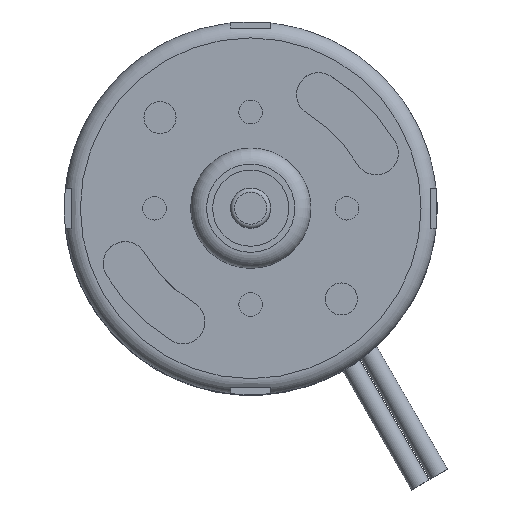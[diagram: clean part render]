
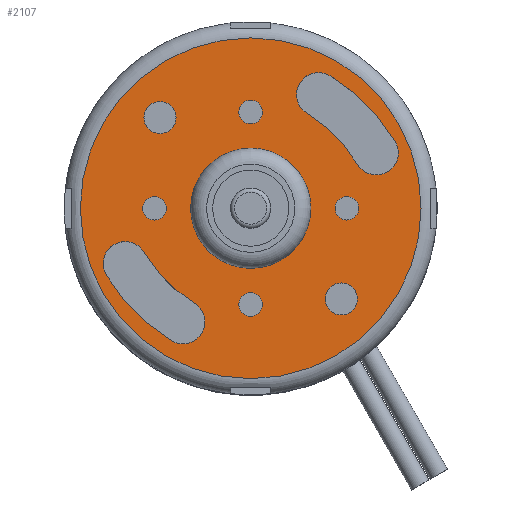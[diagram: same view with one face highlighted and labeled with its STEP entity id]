
A CAD part, top view. The second image highlights one B-rep face of the part: STEP entity #2107.
In plain terms, the highlighted planar face has unit normal (0, 0, 1).
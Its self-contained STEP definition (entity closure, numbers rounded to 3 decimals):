
#433=PLANE('',#2371);
#468=FACE_BOUND('',#761,.T.);
#469=FACE_BOUND('',#762,.T.);
#470=FACE_BOUND('',#763,.T.);
#471=FACE_BOUND('',#764,.T.);
#472=FACE_BOUND('',#765,.T.);
#473=FACE_BOUND('',#766,.T.);
#474=FACE_BOUND('',#767,.T.);
#475=FACE_BOUND('',#768,.T.);
#476=FACE_BOUND('',#769,.T.);
#601=FACE_OUTER_BOUND('',#760,.T.);
#760=EDGE_LOOP('',(#1920));
#761=EDGE_LOOP('',(#1921,#1922,#1923,#1924));
#762=EDGE_LOOP('',(#1925,#1926,#1927,#1928));
#763=EDGE_LOOP('',(#1929));
#764=EDGE_LOOP('',(#1930));
#765=EDGE_LOOP('',(#1931));
#766=EDGE_LOOP('',(#1932));
#767=EDGE_LOOP('',(#1933));
#768=EDGE_LOOP('',(#1934));
#769=EDGE_LOOP('',(#1935));
#775=CIRCLE('',#2125,7.5);
#783=CIRCLE('',#2155,21.25);
#822=CIRCLE('',#2239,2.75);
#824=CIRCLE('',#2242,18.5);
#826=CIRCLE('',#2245,2.75);
#828=CIRCLE('',#2248,24.);
#830=CIRCLE('',#2252,18.5);
#832=CIRCLE('',#2255,2.75);
#834=CIRCLE('',#2258,24.);
#836=CIRCLE('',#2261,2.75);
#840=CIRCLE('',#2267,1.475);
#843=CIRCLE('',#2272,1.475);
#846=CIRCLE('',#2277,1.475);
#849=CIRCLE('',#2282,1.475);
#851=CIRCLE('',#2286,2.);
#853=CIRCLE('',#2290,2.);
#897=VERTEX_POINT('',#3039);
#926=VERTEX_POINT('',#3159);
#1000=VERTEX_POINT('',#3528);
#1001=VERTEX_POINT('',#3529);
#1004=VERTEX_POINT('',#3537);
#1006=VERTEX_POINT('',#3543);
#1008=VERTEX_POINT('',#3553);
#1009=VERTEX_POINT('',#3554);
#1012=VERTEX_POINT('',#3562);
#1014=VERTEX_POINT('',#3568);
#1018=VERTEX_POINT('',#3582);
#1021=VERTEX_POINT('',#3590);
#1024=VERTEX_POINT('',#3598);
#1027=VERTEX_POINT('',#3606);
#1029=VERTEX_POINT('',#3612);
#1031=VERTEX_POINT('',#3618);
#1095=EDGE_CURVE('',#897,#897,#775,.T.);
#1136=EDGE_CURVE('',#926,#926,#783,.T.);
#1246=EDGE_CURVE('',#1000,#1001,#822,.T.);
#1250=EDGE_CURVE('',#1004,#1000,#824,.T.);
#1253=EDGE_CURVE('',#1006,#1004,#826,.T.);
#1256=EDGE_CURVE('',#1001,#1006,#828,.T.);
#1258=EDGE_CURVE('',#1008,#1009,#830,.T.);
#1262=EDGE_CURVE('',#1012,#1008,#832,.T.);
#1265=EDGE_CURVE('',#1014,#1012,#834,.T.);
#1268=EDGE_CURVE('',#1009,#1014,#836,.T.);
#1272=EDGE_CURVE('',#1018,#1018,#840,.T.);
#1275=EDGE_CURVE('',#1021,#1021,#843,.T.);
#1278=EDGE_CURVE('',#1024,#1024,#846,.T.);
#1281=EDGE_CURVE('',#1027,#1027,#849,.T.);
#1283=EDGE_CURVE('',#1029,#1029,#851,.T.);
#1285=EDGE_CURVE('',#1031,#1031,#853,.T.);
#1920=ORIENTED_EDGE('',*,*,#1136,.F.);
#1921=ORIENTED_EDGE('',*,*,#1246,.T.);
#1922=ORIENTED_EDGE('',*,*,#1256,.T.);
#1923=ORIENTED_EDGE('',*,*,#1253,.T.);
#1924=ORIENTED_EDGE('',*,*,#1250,.T.);
#1925=ORIENTED_EDGE('',*,*,#1258,.T.);
#1926=ORIENTED_EDGE('',*,*,#1268,.T.);
#1927=ORIENTED_EDGE('',*,*,#1265,.T.);
#1928=ORIENTED_EDGE('',*,*,#1262,.T.);
#1929=ORIENTED_EDGE('',*,*,#1272,.T.);
#1930=ORIENTED_EDGE('',*,*,#1275,.T.);
#1931=ORIENTED_EDGE('',*,*,#1278,.T.);
#1932=ORIENTED_EDGE('',*,*,#1281,.T.);
#1933=ORIENTED_EDGE('',*,*,#1283,.T.);
#1934=ORIENTED_EDGE('',*,*,#1285,.T.);
#1935=ORIENTED_EDGE('',*,*,#1095,.T.);
#2107=ADVANCED_FACE('',(#601,#468,#469,#470,#471,#472,#473,#474,#475,#476),
#433,.T.);
#2125=AXIS2_PLACEMENT_3D('',#3040,#2392,#2393);
#2155=AXIS2_PLACEMENT_3D('',#3160,#2473,#2474);
#2239=AXIS2_PLACEMENT_3D('',#3530,#2704,#2705);
#2242=AXIS2_PLACEMENT_3D('',#3538,#2712,#2713);
#2245=AXIS2_PLACEMENT_3D('',#3544,#2719,#2720);
#2248=AXIS2_PLACEMENT_3D('',#3549,#2726,#2727);
#2252=AXIS2_PLACEMENT_3D('',#3555,#2734,#2735);
#2255=AXIS2_PLACEMENT_3D('',#3563,#2742,#2743);
#2258=AXIS2_PLACEMENT_3D('',#3569,#2749,#2750);
#2261=AXIS2_PLACEMENT_3D('',#3574,#2756,#2757);
#2267=AXIS2_PLACEMENT_3D('',#3583,#2768,#2769);
#2272=AXIS2_PLACEMENT_3D('',#3591,#2778,#2779);
#2277=AXIS2_PLACEMENT_3D('',#3599,#2788,#2789);
#2282=AXIS2_PLACEMENT_3D('',#3607,#2798,#2799);
#2286=AXIS2_PLACEMENT_3D('',#3613,#2806,#2807);
#2290=AXIS2_PLACEMENT_3D('',#3619,#2814,#2815);
#2371=AXIS2_PLACEMENT_3D('',#3814,#3022,#3023);
#2392=DIRECTION('center_axis',(0.,0.,-1.));
#2393=DIRECTION('ref_axis',(-1.,0.,0.));
#2473=DIRECTION('center_axis',(0.,0.,-1.));
#2474=DIRECTION('ref_axis',(-1.,0.,0.));
#2704=DIRECTION('center_axis',(0.,0.,-1.));
#2705=DIRECTION('ref_axis',(-0.521,-0.854,0.));
#2712=DIRECTION('center_axis',(0.,0.,1.));
#2713=DIRECTION('ref_axis',(0.859,0.512,0.));
#2719=DIRECTION('center_axis',(0.,0.,-1.));
#2720=DIRECTION('ref_axis',(0.859,0.512,0.));
#2726=DIRECTION('center_axis',(0.,0.,-1.));
#2727=DIRECTION('ref_axis',(-0.859,-0.512,0.));
#2734=DIRECTION('center_axis',(0.,0.,1.));
#2735=DIRECTION('ref_axis',(0.859,0.512,0.));
#2742=DIRECTION('center_axis',(0.,0.,-1.));
#2743=DIRECTION('ref_axis',(0.859,0.512,0.));
#2749=DIRECTION('center_axis',(0.,0.,-1.));
#2750=DIRECTION('ref_axis',(-0.859,-0.512,0.));
#2756=DIRECTION('center_axis',(0.,0.,-1.));
#2757=DIRECTION('ref_axis',(-0.521,-0.854,0.));
#2768=DIRECTION('center_axis',(0.,0.,-1.));
#2769=DIRECTION('ref_axis',(-1.,0.,0.));
#2778=DIRECTION('center_axis',(0.,0.,-1.));
#2779=DIRECTION('ref_axis',(-1.,0.,0.));
#2788=DIRECTION('center_axis',(0.,0.,-1.));
#2789=DIRECTION('ref_axis',(-1.,0.,0.));
#2798=DIRECTION('center_axis',(0.,0.,-1.));
#2799=DIRECTION('ref_axis',(-1.,0.,0.));
#2806=DIRECTION('center_axis',(0.,0.,-1.));
#2807=DIRECTION('ref_axis',(-1.,0.,0.));
#2814=DIRECTION('center_axis',(0.,0.,-1.));
#2815=DIRECTION('ref_axis',(-1.,0.,0.));
#3022=DIRECTION('center_axis',(0.,0.,1.));
#3023=DIRECTION('ref_axis',(1.,0.,0.));
#3039=CARTESIAN_POINT('',(7.5,0.,50.));
#3040=CARTESIAN_POINT('Origin',(0.,0.,50.));
#3159=CARTESIAN_POINT('',(21.25,0.,50.));
#3160=CARTESIAN_POINT('Origin',(0.,0.,50.));
#3528=CARTESIAN_POINT('',(-7.035,-11.824,50.));
#3529=CARTESIAN_POINT('',(-9.899,-16.52,50.));
#3530=CARTESIAN_POINT('Origin',(-8.467,-14.172,50.));
#3537=CARTESIAN_POINT('',(-13.296,-5.5,50.));
#3538=CARTESIAN_POINT('Origin',(2.595,3.972,50.));
#3543=CARTESIAN_POINT('',(-18.021,-8.316,50.));
#3544=CARTESIAN_POINT('Origin',(-15.658,-6.908,50.));
#3549=CARTESIAN_POINT('Origin',(2.595,3.972,50.));
#3553=CARTESIAN_POINT('',(13.296,5.5,50.));
#3554=CARTESIAN_POINT('',(7.035,11.824,50.));
#3555=CARTESIAN_POINT('Origin',(-2.595,-3.972,50.));
#3562=CARTESIAN_POINT('',(18.021,8.316,50.));
#3563=CARTESIAN_POINT('Origin',(15.658,6.908,50.));
#3568=CARTESIAN_POINT('',(9.899,16.52,50.));
#3569=CARTESIAN_POINT('Origin',(-2.595,-3.972,50.));
#3574=CARTESIAN_POINT('Origin',(8.467,14.172,50.));
#3582=CARTESIAN_POINT('',(-10.525,0.,50.));
#3583=CARTESIAN_POINT('Origin',(-12.,0.,50.));
#3590=CARTESIAN_POINT('',(13.475,0.,50.));
#3591=CARTESIAN_POINT('Origin',(12.,0.,50.));
#3598=CARTESIAN_POINT('',(1.475,12.,50.));
#3599=CARTESIAN_POINT('Origin',(0.,12.,50.));
#3606=CARTESIAN_POINT('',(1.475,-12.,50.));
#3607=CARTESIAN_POINT('Origin',(0.,-12.,50.));
#3612=CARTESIAN_POINT('',(13.314,-11.314,50.));
#3613=CARTESIAN_POINT('Origin',(11.314,-11.314,50.));
#3618=CARTESIAN_POINT('',(-9.314,11.314,50.));
#3619=CARTESIAN_POINT('Origin',(-11.314,11.314,50.));
#3814=CARTESIAN_POINT('Origin',(0.,0.,50.));
